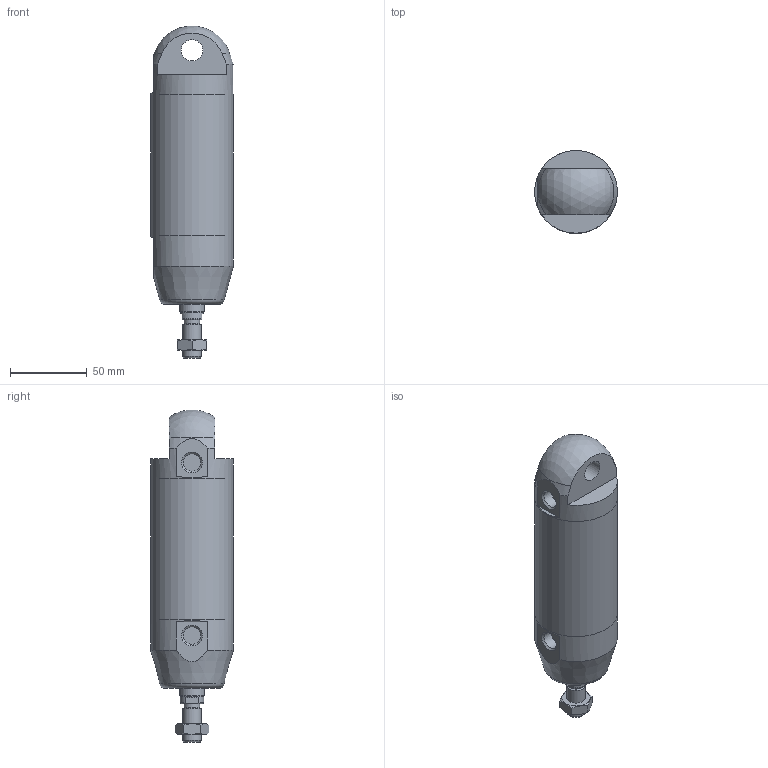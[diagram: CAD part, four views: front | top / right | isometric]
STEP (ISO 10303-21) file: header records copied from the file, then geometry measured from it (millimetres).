
FILE_DESCRIPTION(/* description */ (''),/* implementation_level */ '2;1');
FILE_NAME(/* name */ 'I:\Area Tecnica\Documenti\A-Manieri\_Inventor\12X\12X#A_###_####_#_#\12XAA_050_0050_#_#.stp',/* time_stamp */ '2015-04-22T12:08:16+02:00',/* author */ ('maniean1'),/* organization */ ('Pneumax S.p.A.'),/* preprocessor_version */ 'ST-DEVELOPER v15.2',/* originating_system */ 'Autodesk Inventor 2014',/* authorisation */ '');
FILE_SCHEMA (('AUTOMOTIVE_DESIGN { 1 0 10303 214 3 1 1 }'));
Length unit declared in the file: millimetre
Products named in the file (6): C1250_619-0050; 12X50_613; 12X50_605; S12X50_0050; 12X_50_11; 12XAA_050_0050_#_#
Bounding box: 54 x 54 x 216.83 mm (x, y, z)
Volume: 280536.9 mm3; surface area: 72531.2 mm2
Topology: 5 solids, 5 shells, 59 faces, 126 edges, 81 vertices
Faces by surface type: plane 31, cylinder 14, cone 12, torus 1, sphere 1
Full cylindrical faces by diameter (mm): 10.2 x1, 11.4 x2, 12 x2, 14 x2, 15.6 x1, 16 x1, 50 x2, 54 x3
Entity records: 1560 total; most frequent: CARTESIAN_POINT 288, DIRECTION 266, ORIENTED_EDGE 196, AXIS2_PLACEMENT_3D 120, EDGE_CURVE 98, EDGE_LOOP 94, VERTEX_POINT 76, ADVANCED_FACE 59
